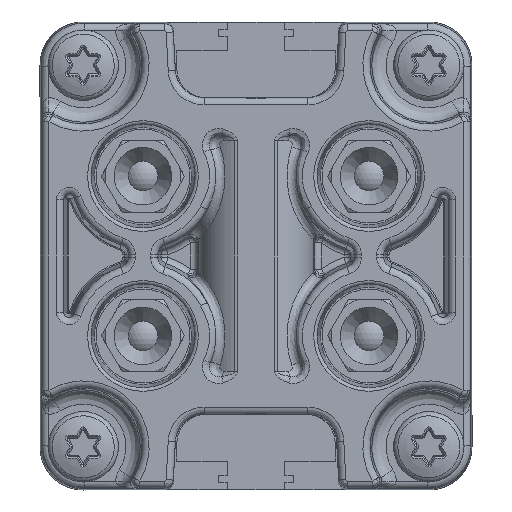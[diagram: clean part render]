
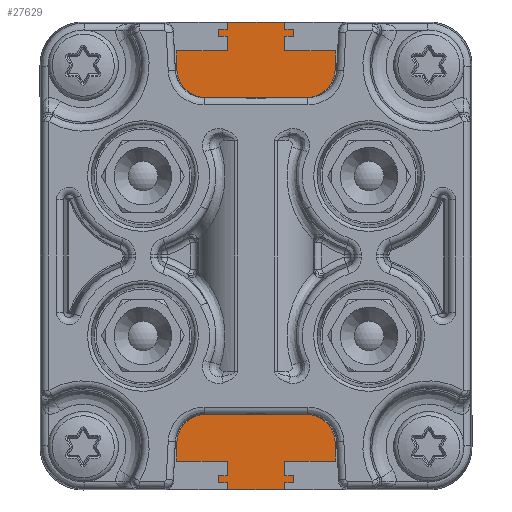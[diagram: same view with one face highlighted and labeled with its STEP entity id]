
A CAD part, left-side view. The second image highlights one B-rep face of the part: STEP entity #27629.
In plain terms, the highlighted planar face has unit normal (-1, 0, 0).
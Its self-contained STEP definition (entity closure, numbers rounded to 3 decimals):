
#27=ELLIPSE('',#29091,6.002,6.);
#34=ELLIPSE('',#29219,6.002,6.);
#38=ELLIPSE('',#29313,6.002,6.);
#44=ELLIPSE('',#29440,6.002,6.);
#2031=LINE('',#39748,#3966);
#2114=LINE('',#47216,#4049);
#2127=LINE('',#48481,#4062);
#2158=LINE('',#50461,#4093);
#2187=LINE('',#52943,#4122);
#2188=LINE('',#52944,#4123);
#2190=LINE('',#52948,#4125);
#2215=LINE('',#55757,#4150);
#2219=LINE('',#55769,#4154);
#2220=LINE('',#55770,#4155);
#2249=LINE('',#58402,#4184);
#2251=LINE('',#58476,#4186);
#3966=VECTOR('',#31807,1000.);
#4049=VECTOR('',#32186,1000.);
#4062=VECTOR('',#32255,1000.);
#4093=VECTOR('',#32378,1000.);
#4122=VECTOR('',#32495,1000.);
#4123=VECTOR('',#32496,1000.);
#4125=VECTOR('',#32500,1000.);
#4150=VECTOR('',#32621,1000.);
#4154=VECTOR('',#32629,1000.);
#4155=VECTOR('',#32630,1000.);
#4184=VECTOR('',#32765,1000.);
#4186=VECTOR('',#32771,1000.);
#5874=PLANE('',#29451);
#8908=ORIENTED_EDGE('',*,*,#15429,.T.);
#8909=ORIENTED_EDGE('',*,*,#15170,.T.);
#8910=ORIENTED_EDGE('',*,*,#15428,.F.);
#8911=ORIENTED_EDGE('',*,*,#15145,.T.);
#8912=ORIENTED_EDGE('',*,*,#15208,.T.);
#8913=ORIENTED_EDGE('',*,*,#14848,.F.);
#8914=ORIENTED_EDGE('',*,*,#15672,.T.);
#8915=ORIENTED_EDGE('',*,*,#14800,.F.);
#8916=ORIENTED_EDGE('',*,*,#15671,.F.);
#8917=ORIENTED_EDGE('',*,*,#15802,.T.);
#8918=ORIENTED_EDGE('',*,*,#15665,.F.);
#8919=ORIENTED_EDGE('',*,*,#15778,.T.);
#8920=ORIENTED_EDGE('',*,*,#15807,.F.);
#8921=ORIENTED_EDGE('',*,*,#15366,.F.);
#8922=ORIENTED_EDGE('',*,*,#15432,.T.);
#8923=ORIENTED_EDGE('',*,*,#15323,.F.);
#8924=ORIENTED_EDGE('',*,*,#14925,.F.);
#8925=ORIENTED_EDGE('',*,*,#15031,.T.);
#8926=ORIENTED_EDGE('',*,*,#15674,.T.);
#8927=ORIENTED_EDGE('',*,*,#15425,.F.);
#8928=ORIENTED_EDGE('',*,*,#15808,.F.);
#14800=EDGE_CURVE('',#18693,#18694,#2031,.T.);
#14848=EDGE_CURVE('',#18725,#18727,#27,.T.);
#14925=EDGE_CURVE('',#18760,#18760,#21132,.T.);
#15031=EDGE_CURVE('',#18822,#18822,#21163,.T.);
#15145=EDGE_CURVE('',#18901,#18900,#34,.T.);
#15170=EDGE_CURVE('',#18891,#18897,#2114,.T.);
#15208=EDGE_CURVE('',#18900,#18727,#2127,.T.);
#15323=EDGE_CURVE('',#19009,#19010,#2158,.T.);
#15366=EDGE_CURVE('',#19031,#19033,#38,.T.);
#15425=EDGE_CURVE('',#19052,#19052,#21229,.T.);
#15428=EDGE_CURVE('',#18901,#18897,#2187,.T.);
#15429=EDGE_CURVE('',#19009,#18891,#2188,.T.);
#15432=EDGE_CURVE('',#19031,#19010,#2190,.T.);
#15665=EDGE_CURVE('',#19245,#19246,#2215,.T.);
#15671=EDGE_CURVE('',#19251,#18693,#2219,.T.);
#15672=EDGE_CURVE('',#18725,#18694,#2220,.T.);
#15674=EDGE_CURVE('',#19253,#19253,#21258,.T.);
#15778=EDGE_CURVE('',#19245,#19318,#44,.T.);
#15802=EDGE_CURVE('',#19251,#19246,#2249,.T.);
#15807=EDGE_CURVE('',#19033,#19318,#2251,.T.);
#15808=EDGE_CURVE('',#19325,#19325,#21280,.T.);
#18693=VERTEX_POINT('',#39747);
#18694=VERTEX_POINT('',#39749);
#18725=VERTEX_POINT('',#41231);
#18727=VERTEX_POINT('',#41234);
#18760=VERTEX_POINT('',#42529);
#18822=VERTEX_POINT('',#44143);
#18891=VERTEX_POINT('',#45700);
#18897=VERTEX_POINT('',#46000);
#18900=VERTEX_POINT('',#46095);
#18901=VERTEX_POINT('',#46097);
#19009=VERTEX_POINT('',#50460);
#19010=VERTEX_POINT('',#50462);
#19031=VERTEX_POINT('',#51820);
#19033=VERTEX_POINT('',#51823);
#19052=VERTEX_POINT('',#52923);
#19245=VERTEX_POINT('',#55756);
#19246=VERTEX_POINT('',#55758);
#19251=VERTEX_POINT('',#55768);
#19253=VERTEX_POINT('',#55775);
#19318=VERTEX_POINT('',#57410);
#19325=VERTEX_POINT('',#58478);
#21132=CIRCLE('',#29127,2.75);
#21163=CIRCLE('',#29181,2.75);
#21229=CIRCLE('',#29344,2.75);
#21258=CIRCLE('',#29399,2.75);
#21280=CIRCLE('',#29452,17.047);
#22587=EDGE_LOOP('',(#8908,#8909,#8910,#8911,#8912,#8913,#8914,#8915,#8916,
#8917,#8918,#8919,#8920,#8921,#8922,#8923));
#22588=EDGE_LOOP('',(#8924));
#22589=EDGE_LOOP('',(#8925));
#22590=EDGE_LOOP('',(#8926));
#22591=EDGE_LOOP('',(#8927));
#22592=EDGE_LOOP('',(#8928));
#24407=FACE_BOUND('',#22587,.T.);
#24408=FACE_BOUND('',#22588,.T.);
#24409=FACE_BOUND('',#22589,.T.);
#24410=FACE_BOUND('',#22590,.T.);
#24411=FACE_BOUND('',#22591,.T.);
#24412=FACE_BOUND('',#22592,.T.);
#27629=ADVANCED_FACE('',(#24407,#24408,#24409,#24410,#24411,#24412),#5874,
 .T.);
#29091=AXIS2_PLACEMENT_3D('',#41233,#31836,#31837);
#29127=AXIS2_PLACEMENT_3D('',#42528,#31933,#31934);
#29181=AXIS2_PLACEMENT_3D('',#44142,#32064,#32065);
#29219=AXIS2_PLACEMENT_3D('',#46096,#32166,#32167);
#29313=AXIS2_PLACEMENT_3D('',#51822,#32406,#32407);
#29344=AXIS2_PLACEMENT_3D('',#52922,#32490,#32491);
#29399=AXIS2_PLACEMENT_3D('',#55774,#32635,#32636);
#29440=AXIS2_PLACEMENT_3D('',#57411,#32743,#32744);
#29451=AXIS2_PLACEMENT_3D('',#58475,#32769,#32770);
#29452=AXIS2_PLACEMENT_3D('',#58477,#32772,#32773);
#31807=DIRECTION('',(0.,-1.,0.));
#31836=DIRECTION('',(1.,0.,0.));
#31837=DIRECTION('',(0.,0.707,-0.707));
#31933=DIRECTION('',(-1.,0.,0.));
#31934=DIRECTION('',(0.,1.,0.));
#32064=DIRECTION('',(1.,0.,0.));
#32065=DIRECTION('',(0.,1.,0.));
#32166=DIRECTION('',(-1.,0.,0.));
#32167=DIRECTION('',(0.,0.707,0.707));
#32186=DIRECTION('',(0.,-1.,0.));
#32255=DIRECTION('',(0.,0.,1.));
#32378=DIRECTION('',(0.,1.,0.));
#32406=DIRECTION('',(1.,0.,0.));
#32407=DIRECTION('',(0.,-0.707,0.707));
#32490=DIRECTION('',(-1.,0.,0.));
#32491=DIRECTION('',(0.,-1.,0.));
#32495=DIRECTION('',(0.,1.,0.));
#32496=DIRECTION('',(0.,-1.,0.));
#32500=DIRECTION('',(0.,-1.,0.));
#32621=DIRECTION('',(0.,-1.,0.));
#32629=DIRECTION('',(0.,-1.,0.));
#32630=DIRECTION('',(0.,1.,0.));
#32635=DIRECTION('',(1.,0.,0.));
#32636=DIRECTION('',(0.,-1.,0.));
#32743=DIRECTION('',(-1.,0.,0.));
#32744=DIRECTION('',(0.,-0.707,-0.707));
#32765=DIRECTION('',(0.,1.,0.));
#32769=DIRECTION('',(-1.,0.,0.));
#32770=DIRECTION('',(0.,-1.,0.));
#32771=DIRECTION('',(0.,0.,1.));
#32772=DIRECTION('',(-1.,0.,0.));
#32773=DIRECTION('',(0.,0.,1.));
#39747=CARTESIAN_POINT('',(0.,-8.5,32.5));
#39748=CARTESIAN_POINT('',(0.,0.,32.5));
#39749=CARTESIAN_POINT('',(0.,-22.035,32.5));
#41231=CARTESIAN_POINT('',(0.,-24.001,32.5));
#41233=CARTESIAN_POINT('',(0.,-23.999,26.499));
#41234=CARTESIAN_POINT('',(0.,-30.,26.501));
#42528=CARTESIAN_POINT('',(0.,-24.,26.5));
#42529=CARTESIAN_POINT('',(0.,-21.25,26.5));
#44142=CARTESIAN_POINT('',(0.,-24.,-26.5));
#44143=CARTESIAN_POINT('',(0.,-21.25,-26.5));
#45700=CARTESIAN_POINT('',(0.,-8.5,-32.5));
#46000=CARTESIAN_POINT('',(0.,-22.035,-32.5));
#46095=CARTESIAN_POINT('',(0.,-30.,-26.501));
#46096=CARTESIAN_POINT('',(0.,-23.999,-26.499));
#46097=CARTESIAN_POINT('',(0.,-24.001,-32.5));
#47216=CARTESIAN_POINT('',(0.,0.,-32.5));
#48481=CARTESIAN_POINT('',(0.,-30.,0.));
#50460=CARTESIAN_POINT('',(0.,8.5,-32.5));
#50461=CARTESIAN_POINT('',(0.,0.,-32.5));
#50462=CARTESIAN_POINT('',(0.,22.035,-32.5));
#51820=CARTESIAN_POINT('',(0.,24.001,-32.5));
#51822=CARTESIAN_POINT('',(0.,23.999,-26.499));
#51823=CARTESIAN_POINT('',(0.,30.,-26.501));
#52922=CARTESIAN_POINT('',(0.,24.,-26.5));
#52923=CARTESIAN_POINT('',(0.,21.25,-26.5));
#52943=CARTESIAN_POINT('',(0.,0.,-32.5));
#52944=CARTESIAN_POINT('',(0.,30.,-32.5));
#52948=CARTESIAN_POINT('',(0.,0.,-32.5));
#55756=CARTESIAN_POINT('',(0.,24.001,32.5));
#55757=CARTESIAN_POINT('',(0.,0.,32.5));
#55758=CARTESIAN_POINT('',(0.,22.035,32.5));
#55768=CARTESIAN_POINT('',(0.,8.5,32.5));
#55769=CARTESIAN_POINT('',(0.,30.,32.5));
#55770=CARTESIAN_POINT('',(0.,0.,32.5));
#55774=CARTESIAN_POINT('',(0.,24.,26.5));
#55775=CARTESIAN_POINT('',(0.,21.25,26.5));
#57410=CARTESIAN_POINT('',(0.,30.,26.501));
#57411=CARTESIAN_POINT('',(0.,23.999,26.499));
#58402=CARTESIAN_POINT('',(0.,0.,32.5));
#58475=CARTESIAN_POINT('',(0.,0.,-0.4));
#58476=CARTESIAN_POINT('',(0.,30.,0.));
#58477=CARTESIAN_POINT('',(0.,0.,0.));
#58478=CARTESIAN_POINT('',(0.,0.,17.047));
